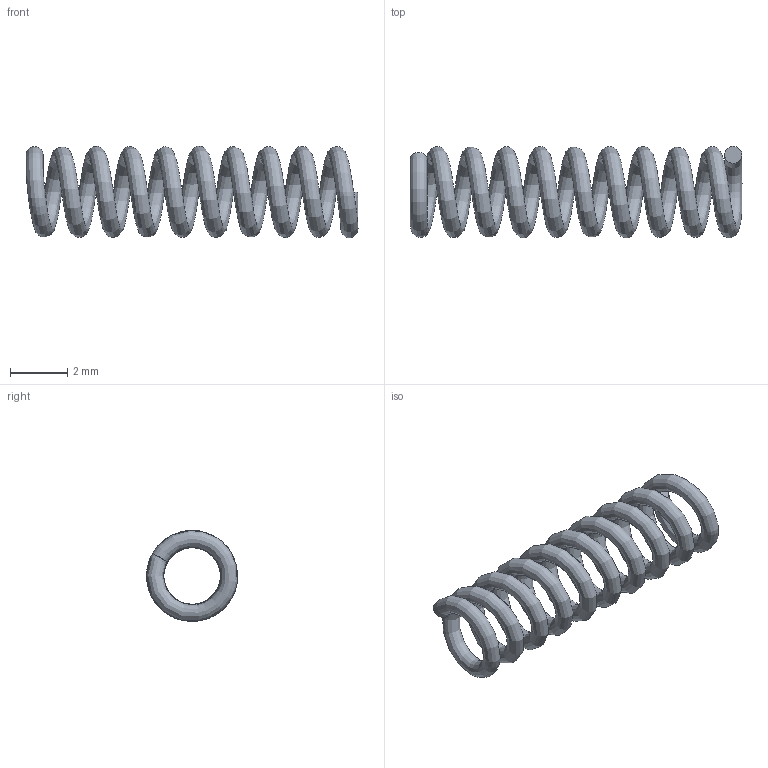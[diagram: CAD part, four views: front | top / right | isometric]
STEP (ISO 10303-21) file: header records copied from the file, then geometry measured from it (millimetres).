
FILE_DESCRIPTION(/* description */ (''),/* implementation_level */ '2;1');
FILE_NAME(/* name */ 'H:\5-Olympiades\47e\Sujet Régional\Etau\A donner aux candidats\2-Après-Midi\07-Ressort verrou.stp',/* time_stamp */ '2022-03-30T08:36:25+02:00',/* author */ ('Philippe'),/* organization */ (''),/* preprocessor_version */ 'ST-DEVELOPER v18',/* originating_system */ 'Autodesk Inventor 2020',/* authorisation */ '');
FILE_SCHEMA (('AUTOMOTIVE_DESIGN { 1 0 10303 214 3 1 1 }'));
Length unit declared in the file: millimetre
Products named in the file (1): 07-Ressort verrou
Bounding box: 11.6 x 3.19 x 3.19 mm (x, y, z)
Volume: 22.9 mm3; surface area: 154 mm2
Topology: 1 solids, 1 shells, 3 faces, 3 edges, 2 vertices
Faces by surface type: plane 2, bspline 1
Entity records: 1960 total; most frequent: CARTESIAN_POINT 1877, DIRECTION 8, ORIENTED_EDGE 6, AXIS2_PLACEMENT_3D 4, FACE_OUTER_BOUND 3, EDGE_LOOP 3, EDGE_CURVE 3, ADVANCED_FACE 3
